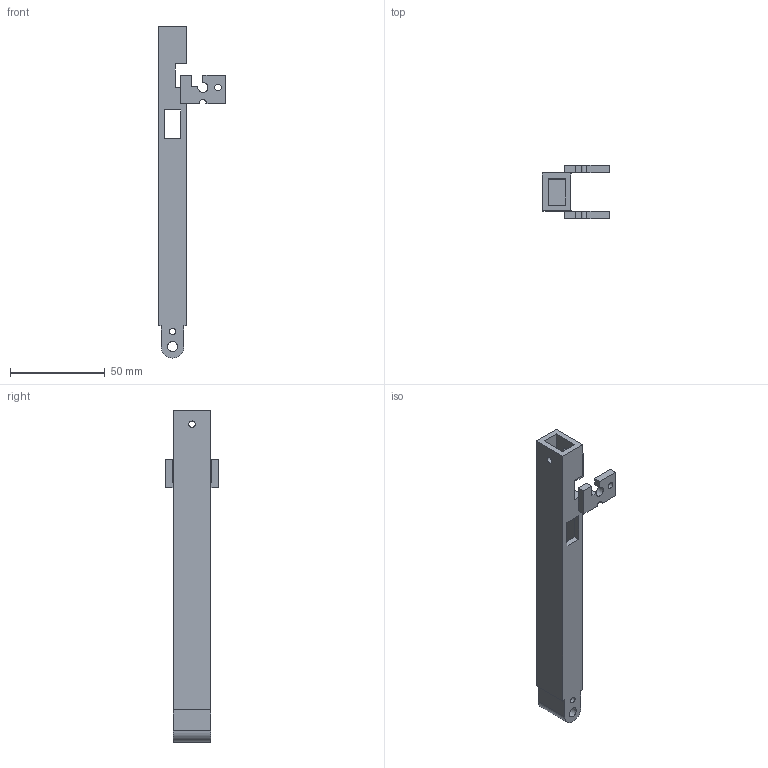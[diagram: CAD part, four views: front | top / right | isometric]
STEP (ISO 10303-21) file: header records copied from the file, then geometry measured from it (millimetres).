
FILE_DESCRIPTION(('Open CASCADE Model'),'2;1');
FILE_NAME('F09-COL','2026-11-15T22:32:11',('Author'),('Open CASCADE'), 'Open CASCADE STEP processor 8.0','build123d','Unknown');
FILE_SCHEMA(('AUTOMOTIVE_DESIGN { 1 0 10303 214 1 1 1 1 }'));
Length unit declared in the file: millimetre
Products named in the file (1): F09-COL
Bounding box: 35.5 x 28.4 x 175.5 mm (x, y, z)
Volume: 31224.5 mm3; surface area: 21815.3 mm2
Topology: 1 solids, 1 shells, 67 faces, 198 edges, 132 vertices
Faces by surface type: plane 56, cylinder 11
Full cylindrical faces by diameter (mm): 3.4 x5, 5.3 x1
Entity records: 4708 total; most frequent: CARTESIAN_POINT 992, DIRECTION 594, LINE 400, VECTOR 400, ORIENTED_EDGE 396, PCURVE 396, DEFINITIONAL_REPRESENTATION 396, EDGE_CURVE 198
